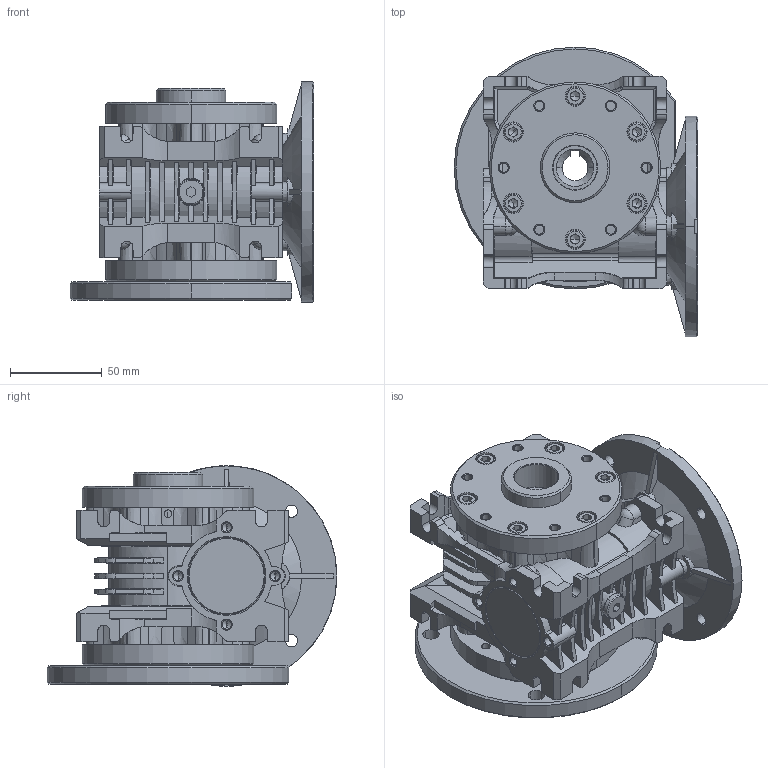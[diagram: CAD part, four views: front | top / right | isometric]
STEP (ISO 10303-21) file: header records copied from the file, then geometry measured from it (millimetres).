
FILE_DESCRIPTION (( 'STEP AP203' ), '1' );
FILE_NAME ('MRP-32_120-9_SO-2_KM-1.STEP', '2023-10-17T11:07:27', ( '' ), ( '' ), 'SwSTEP 2.0', 'SolidWorks 2022', '' );
FILE_SCHEMA (( 'CONFIG_CONTROL_DESIGN' ));
Length unit declared in the file: millimetre
Products named in the file (1): MRP-32_120-9_SO-2_KM-1
Bounding box: 133 x 158.24 x 120.43 mm (x, y, z)
Volume: 788220.5 mm3; surface area: 194686.5 mm2
Topology: 1 solids, 59 shells, 2862 faces, 7088 edges, 4361 vertices
Faces by surface type: plane 1020, cylinder 669, cone 632, torus 331, bspline 183, sphere 27
Entity records: 90521 total; most frequent: CARTESIAN_POINT 24393, ORIENTED_EDGE 14004, DIRECTION 13843, EDGE_CURVE 7002, AXIS2_PLACEMENT_3D 5395, VERTEX_POINT 4361, LINE 3053, VECTOR 3053
